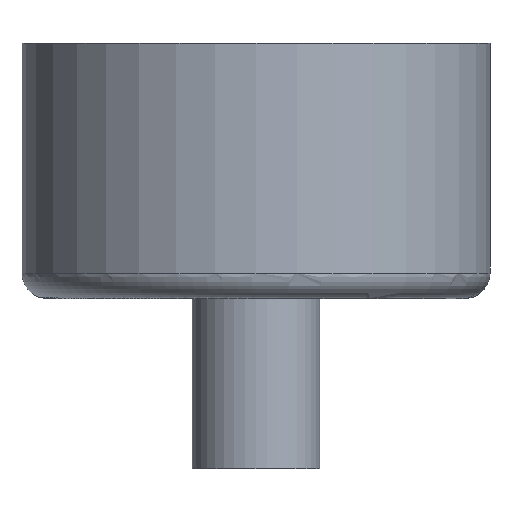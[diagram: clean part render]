
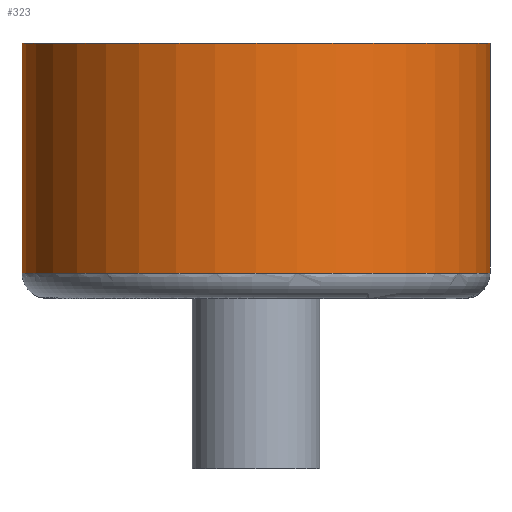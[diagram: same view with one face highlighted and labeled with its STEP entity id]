
A CAD part, front view. The second image highlights one B-rep face of the part: STEP entity #323.
In plain terms, the highlighted cylindrical face has radius 27.5 mm (diameter 55 mm), a full revolution.
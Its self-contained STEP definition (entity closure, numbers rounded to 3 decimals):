
#52=FACE_OUTER_BOUND('',#78,.T.);
#78=EDGE_LOOP('',(#266,#267,#268,#269));
#95=LINE('',#583,#106);
#106=VECTOR('',#487,27.5);
#124=CIRCLE('',#370,27.5);
#138=CIRCLE('',#386,27.5);
#155=VERTEX_POINT('',#556);
#164=VERTEX_POINT('',#581);
#187=EDGE_CURVE('',#155,#155,#124,.T.);
#201=EDGE_CURVE('',#164,#164,#138,.T.);
#202=EDGE_CURVE('',#164,#155,#95,.T.);
#266=ORIENTED_EDGE('',*,*,#201,.F.);
#267=ORIENTED_EDGE('',*,*,#202,.T.);
#268=ORIENTED_EDGE('',*,*,#187,.F.);
#269=ORIENTED_EDGE('',*,*,#202,.F.);
#304=CYLINDRICAL_SURFACE('',#385,27.5);
#323=ADVANCED_FACE('',(#52),#304,.T.);
#370=AXIS2_PLACEMENT_3D('',#557,#453,#454);
#385=AXIS2_PLACEMENT_3D('',#580,#483,#484);
#386=AXIS2_PLACEMENT_3D('',#582,#485,#486);
#453=DIRECTION('center_axis',(0.,0.,-1.));
#454=DIRECTION('ref_axis',(1.,0.,0.));
#483=DIRECTION('center_axis',(0.,0.,1.));
#484=DIRECTION('ref_axis',(1.,0.,0.));
#485=DIRECTION('center_axis',(0.,0.,1.));
#486=DIRECTION('ref_axis',(1.,0.,0.));
#487=DIRECTION('',(0.,0.,-1.));
#556=CARTESIAN_POINT('',(-27.5,0.,3.));
#557=CARTESIAN_POINT('Origin',(0.,0.,3.));
#580=CARTESIAN_POINT('Origin',(0.,0.,0.));
#581=CARTESIAN_POINT('',(-27.5,0.,30.));
#582=CARTESIAN_POINT('Origin',(0.,0.,30.));
#583=CARTESIAN_POINT('',(-27.5,0.,0.));
